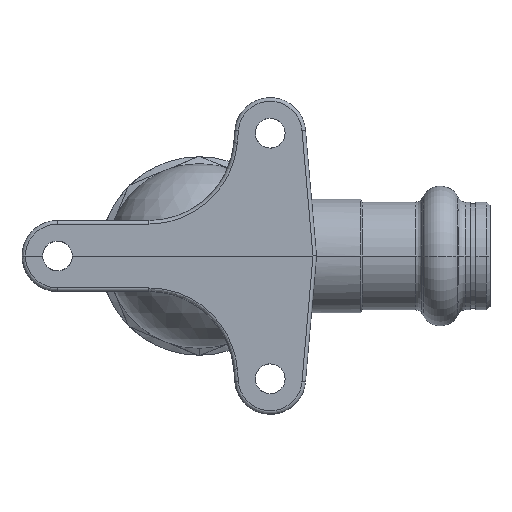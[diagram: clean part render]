
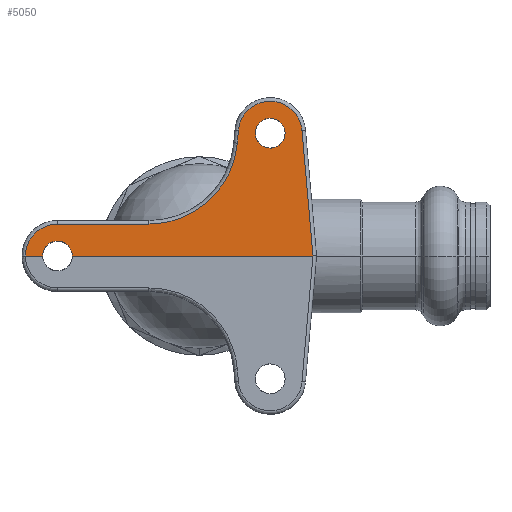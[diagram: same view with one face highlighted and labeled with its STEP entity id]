
A CAD part, left-side view. The second image highlights one B-rep face of the part: STEP entity #5050.
In plain terms, the highlighted planar face has unit normal (-1, 0, 0.009).
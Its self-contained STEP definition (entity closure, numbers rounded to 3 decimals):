
#7 = CARTESIAN_POINT ( 'NONE',  ( -11.831, -14.2, 19.421 ) ) ;
#72 = VERTEX_POINT ( 'NONE', #2394 ) ;
#103 = PLANE ( 'NONE',  #4130 ) ;
#172 =( BOUNDED_CURVE ( )  B_SPLINE_CURVE ( 3, ( #622, #185, #3655, #3749 ),
 .UNSPECIFIED., .F., .F. ) 
 B_SPLINE_CURVE_WITH_KNOTS ( ( 4, 4 ),
 ( 4.8, 6.283 ),
 .UNSPECIFIED. ) 
 CURVE ( )  GEOMETRIC_REPRESENTATION_ITEM ( )  RATIONAL_B_SPLINE_CURVE ( ( 1., 0.825, 0.825, 1. ) ) 
 REPRESENTATION_ITEM ( '' )  );
#185 = CARTESIAN_POINT ( 'NONE',  ( -11.92, -4.765, 9.116 ) ) ;
#262 = DIRECTION ( 'NONE',  ( -0.009, 0.087, -0.996 ) ) ;
#455 = FACE_BOUND ( 'NONE', #5766, .T. ) ;
#592 =( BOUNDED_CURVE ( )  B_SPLINE_CURVE ( 3, ( #840, #3509, #1274, #4415 ),
 .UNSPECIFIED., .F., .F. ) 
 B_SPLINE_CURVE_WITH_KNOTS ( ( 4, 4 ),
 ( 3.142, 4.713 ),
 .UNSPECIFIED. ) 
 CURVE ( )  GEOMETRIC_REPRESENTATION_ITEM ( )  RATIONAL_B_SPLINE_CURVE ( ( 1., 0.805, 0.805, 1. ) ) 
 REPRESENTATION_ITEM ( '' )  );
#605 = VECTOR ( 'NONE', #5326, 1000. ) ;
#622 = CARTESIAN_POINT ( 'NONE',  ( -11.861, -5.359, 15.915 ) ) ;
#625 = VERTEX_POINT ( 'NONE', #3581 ) ;
#668 = CARTESIAN_POINT ( 'NONE',  ( -11.779, -13.817, 25.323 ) ) ;
#747 = ORIENTED_EDGE ( 'NONE', *, *, #1409, .T. ) ;
#776 = CARTESIAN_POINT ( 'NONE',  ( -11.831, -5.8, 19.421 ) ) ;
#818 = ORIENTED_EDGE ( 'NONE', *, *, #3987, .T. ) ;
#840 = CARTESIAN_POINT ( 'NONE',  ( -11.961, 20., 4.504 ) ) ;
#939 = VERTEX_POINT ( 'NONE', #2814 ) ;
#964 = VERTEX_POINT ( 'NONE', #3759 ) ;
#999 = CARTESIAN_POINT ( 'NONE',  ( -12., 0., 0. ) ) ;
#1121 = CARTESIAN_POINT ( 'NONE',  ( -12., 0., 0. ) ) ;
#1182 = ORIENTED_EDGE ( 'NONE', *, *, #2195, .T. ) ;
#1206 = CARTESIAN_POINT ( 'NONE',  ( -11.982, 18.77, 2.1 ) ) ;
#1274 = CARTESIAN_POINT ( 'NONE',  ( -11.977, 24.503, 2.638 ) ) ;
#1344 = CARTESIAN_POINT ( 'NONE',  ( -11.867, -10., 15.221 ) ) ;
#1371 = VECTOR ( 'NONE', #4193, 1000. ) ;
#1375 = ORIENTED_EDGE ( 'NONE', *, *, #3805, .T. ) ;
#1409 = EDGE_CURVE ( 'NONE', #5451, #2273, #4107, .T. ) ;
#1414 =( BOUNDED_CURVE ( )  B_SPLINE_CURVE ( 3, ( #3883, #1662, #776, #3899 ),
 .UNSPECIFIED., .F., .F. ) 
 B_SPLINE_CURVE_WITH_KNOTS ( ( 4, 4 ),
 ( 3.142, 6.283 ),
 .UNSPECIFIED. ) 
 CURVE ( )  GEOMETRIC_REPRESENTATION_ITEM ( )  RATIONAL_B_SPLINE_CURVE ( ( 1., 0.333, 0.333, 1. ) ) 
 REPRESENTATION_ITEM ( '' )  );
#1637 = FACE_OUTER_BOUND ( 'NONE', #5021, .T. ) ;
#1662 = CARTESIAN_POINT ( 'NONE',  ( -11.867, -5.8, 15.221 ) ) ;
#1784 = ORIENTED_EDGE ( 'NONE', *, *, #3865, .T. ) ;
#1930 = CARTESIAN_POINT ( 'NONE',  ( -11.988, -15.911, 1.392 ) ) ;
#1984 = EDGE_CURVE ( 'NONE', #939, #2430, #592, .T. ) ;
#1991 = CARTESIAN_POINT ( 'NONE',  ( -11.982, 21.23, 2.1 ) ) ;
#2022 = CARTESIAN_POINT ( 'NONE',  ( -11.845, -5.517, 17.717 ) ) ;
#2024 = CARTESIAN_POINT ( 'NONE',  ( -12., -16.033, 0. ) ) ;
#2043 = EDGE_CURVE ( 'NONE', #72, #5113, #2058, .T. ) ;
#2058 =( BOUNDED_CURVE ( )  B_SPLINE_CURVE ( 3, ( #5349, #7, #4027, #1344 ),
 .UNSPECIFIED., .F., .T. ) 
 B_SPLINE_CURVE_WITH_KNOTS ( ( 4, 4 ),
 ( 0., 3.142 ),
 .UNSPECIFIED. ) 
 CURVE ( )  GEOMETRIC_REPRESENTATION_ITEM ( )  RATIONAL_B_SPLINE_CURVE ( ( 1., 0.333, 0.333, 1. ) ) 
 REPRESENTATION_ITEM ( '' )  );
#2111 = CARTESIAN_POINT ( 'NONE',  ( -12., 17.9, 0. ) ) ;
#2168 = LINE ( 'NONE', #1121, #5454 ) ;
#2195 = EDGE_CURVE ( 'NONE', #2273, #2563, #172, .T. ) ;
#2273 = VERTEX_POINT ( 'NONE', #2904 ) ;
#2354 = DIRECTION ( 'NONE',  ( 0.009, 0., 1. ) ) ;
#2394 = CARTESIAN_POINT ( 'NONE',  ( -11.831, -10., 19.421 ) ) ;
#2395 = EDGE_CURVE ( 'NONE', #2563, #939, #5201, .T. ) ;
#2430 = VERTEX_POINT ( 'NONE', #3094 ) ;
#2463 =( BOUNDED_CURVE ( )  B_SPLINE_CURVE ( 3, ( #3758, #4636, #1991, #5104 ),
 .UNSPECIFIED., .F., .F. ) 
 B_SPLINE_CURVE_WITH_KNOTS ( ( 4, 4 ),
 ( 4.712, 6.283 ),
 .UNSPECIFIED. ) 
 CURVE ( )  GEOMETRIC_REPRESENTATION_ITEM ( )  RATIONAL_B_SPLINE_CURVE ( ( 1., 0.805, 0.805, 1. ) ) 
 REPRESENTATION_ITEM ( '' )  );
#2552 = CARTESIAN_POINT ( 'NONE',  ( -11.845, -14.483, 17.717 ) ) ;
#2563 = VERTEX_POINT ( 'NONE', #4080 ) ;
#2570 = LINE ( 'NONE', #3737, #1371 ) ;
#2606 =( BOUNDED_CURVE ( )  B_SPLINE_CURVE ( 3, ( #3791, #668, #4689, #2022 ),
 .UNSPECIFIED., .F., .T. ) 
 B_SPLINE_CURVE_WITH_KNOTS ( ( 4, 4 ),
 ( 1.658, 4.625 ),
 .UNSPECIFIED. ) 
 CURVE ( )  GEOMETRIC_REPRESENTATION_ITEM ( )  RATIONAL_B_SPLINE_CURVE ( ( 1., 0.391, 0.391, 1. ) ) 
 REPRESENTATION_ITEM ( '' )  );
#2628 = VERTEX_POINT ( 'NONE', #4162 ) ;
#2665 = CARTESIAN_POINT ( 'NONE',  ( -11.961, 0., 4.504 ) ) ;
#2814 = CARTESIAN_POINT ( 'NONE',  ( -11.961, 20., 4.504 ) ) ;
#2904 = CARTESIAN_POINT ( 'NONE',  ( -11.861, -5.359, 15.915 ) ) ;
#3094 = CARTESIAN_POINT ( 'NONE',  ( -12., 24.5, 0. ) ) ;
#3194 = ORIENTED_EDGE ( 'NONE', *, *, #2043, .T. ) ;
#3446 = EDGE_CURVE ( 'NONE', #2430, #2628, #2168, .T. ) ;
#3454 = VERTEX_POINT ( 'NONE', #2024 ) ;
#3507 = ORIENTED_EDGE ( 'NONE', *, *, #3446, .T. ) ;
#3509 = CARTESIAN_POINT ( 'NONE',  ( -11.961, 22.638, 4.504 ) ) ;
#3581 = CARTESIAN_POINT ( 'NONE',  ( -11.982, 20., 2.1 ) ) ;
#3589 = ORIENTED_EDGE ( 'NONE', *, *, #1984, .T. ) ;
#3655 = CARTESIAN_POINT ( 'NONE',  ( -11.961, 0.268, 4.504 ) ) ;
#3737 = CARTESIAN_POINT ( 'NONE',  ( -12., 0., 0. ) ) ;
#3749 = CARTESIAN_POINT ( 'NONE',  ( -11.961, 7.093, 4.504 ) ) ;
#3758 = CARTESIAN_POINT ( 'NONE',  ( -12., 22.1, 0. ) ) ;
#3759 = CARTESIAN_POINT ( 'NONE',  ( -12., 17.9, 0. ) ) ;
#3791 = CARTESIAN_POINT ( 'NONE',  ( -11.845, -14.483, 17.717 ) ) ;
#3793 = DIRECTION ( 'NONE',  ( 0., -1., 0. ) ) ;
#3805 = EDGE_CURVE ( 'NONE', #964, #3454, #2570, .T. ) ;
#3865 = EDGE_CURVE ( 'NONE', #2628, #625, #2463, .T. ) ;
#3883 = CARTESIAN_POINT ( 'NONE',  ( -11.867, -10., 15.221 ) ) ;
#3899 = CARTESIAN_POINT ( 'NONE',  ( -11.831, -10., 19.421 ) ) ;
#3975 = VERTEX_POINT ( 'NONE', #2552 ) ;
#3987 = EDGE_CURVE ( 'NONE', #625, #964, #5562, .T. ) ;
#3994 = EDGE_CURVE ( 'NONE', #5113, #72, #1414, .T. ) ;
#4027 = CARTESIAN_POINT ( 'NONE',  ( -11.867, -14.2, 15.221 ) ) ;
#4080 = CARTESIAN_POINT ( 'NONE',  ( -11.961, 7.093, 4.504 ) ) ;
#4086 = ORIENTED_EDGE ( 'NONE', *, *, #3994, .T. ) ;
#4107 = LINE ( 'NONE', #4275, #5145 ) ;
#4130 = AXIS2_PLACEMENT_3D ( 'NONE', #999, #5016, #2354 ) ;
#4162 = CARTESIAN_POINT ( 'NONE',  ( -12., 22.1, 0. ) ) ;
#4168 = ORIENTED_EDGE ( 'NONE', *, *, #4664, .T. ) ;
#4193 = DIRECTION ( 'NONE',  ( 0., -1., 0. ) ) ;
#4275 = CARTESIAN_POINT ( 'NONE',  ( -12.003, -3.937, -0.344 ) ) ;
#4333 = CARTESIAN_POINT ( 'NONE',  ( -11.982, 20., 2.1 ) ) ;
#4415 = CARTESIAN_POINT ( 'NONE',  ( -12., 24.5, 0. ) ) ;
#4559 = EDGE_CURVE ( 'NONE', #3975, #5451, #2606, .T. ) ;
#4636 = CARTESIAN_POINT ( 'NONE',  ( -11.989, 22.1, 1.23 ) ) ;
#4664 = EDGE_CURVE ( 'NONE', #3454, #3975, #5692, .T. ) ;
#4689 = CARTESIAN_POINT ( 'NONE',  ( -11.779, -6.183, 25.323 ) ) ;
#4783 = CARTESIAN_POINT ( 'NONE',  ( -11.989, 17.9, 1.23 ) ) ;
#5016 = DIRECTION ( 'NONE',  ( -1., 0., 0.009 ) ) ;
#5019 = CARTESIAN_POINT ( 'NONE',  ( -11.845, -5.517, 17.717 ) ) ;
#5021 = EDGE_LOOP ( 'NONE', ( #3507, #1784, #818, #1375, #4168, #5098, #747, #1182, #5158, #3589 ) ) ;
#5050 = ADVANCED_FACE ( 'NONE', ( #455, #1637 ), #103, .T. ) ;
#5098 = ORIENTED_EDGE ( 'NONE', *, *, #4559, .T. ) ;
#5104 = CARTESIAN_POINT ( 'NONE',  ( -11.982, 20., 2.1 ) ) ;
#5113 = VERTEX_POINT ( 'NONE', #5487 ) ;
#5145 = VECTOR ( 'NONE', #262, 1000. ) ;
#5158 = ORIENTED_EDGE ( 'NONE', *, *, #2395, .T. ) ;
#5201 = LINE ( 'NONE', #2665, #605 ) ;
#5270 = VECTOR ( 'NONE', #5495, 1000. ) ;
#5326 = DIRECTION ( 'NONE',  ( 0., 1., 0. ) ) ;
#5349 = CARTESIAN_POINT ( 'NONE',  ( -11.831, -10., 19.421 ) ) ;
#5451 = VERTEX_POINT ( 'NONE', #5019 ) ;
#5454 = VECTOR ( 'NONE', #3793, 1000. ) ;
#5487 = CARTESIAN_POINT ( 'NONE',  ( -11.867, -10., 15.221 ) ) ;
#5495 = DIRECTION ( 'NONE',  ( 0.009, 0.087, 0.996 ) ) ;
#5562 =( BOUNDED_CURVE ( )  B_SPLINE_CURVE ( 3, ( #4333, #1206, #4783, #2111 ),
 .UNSPECIFIED., .F., .T. ) 
 B_SPLINE_CURVE_WITH_KNOTS ( ( 4, 4 ),
 ( 0., 1.571 ),
 .UNSPECIFIED. ) 
 CURVE ( )  GEOMETRIC_REPRESENTATION_ITEM ( )  RATIONAL_B_SPLINE_CURVE ( ( 1., 0.805, 0.805, 1. ) ) 
 REPRESENTATION_ITEM ( '' )  );
#5692 = LINE ( 'NONE', #1930, #5270 ) ;
#5766 = EDGE_LOOP ( 'NONE', ( #4086, #3194 ) ) ;
